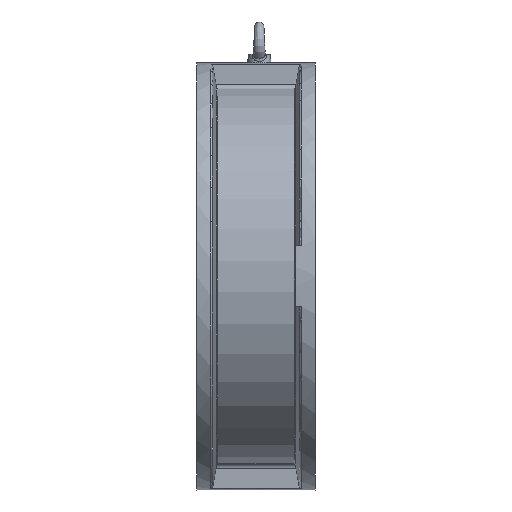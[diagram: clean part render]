
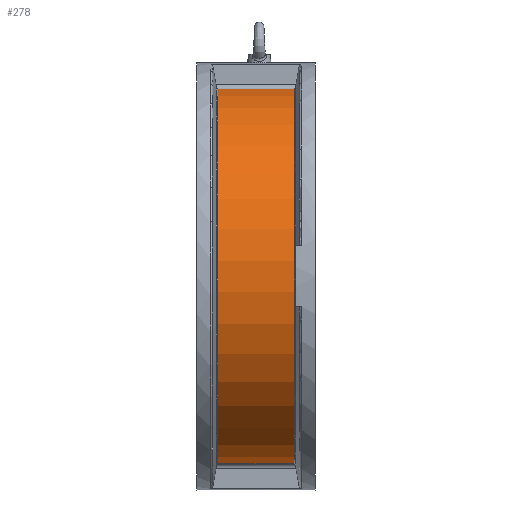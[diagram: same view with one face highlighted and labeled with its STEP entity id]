
A CAD part, left-side view. The second image highlights one B-rep face of the part: STEP entity #278.
In plain terms, the highlighted cylindrical face has radius 202 mm (diameter 404 mm), a partial arc.
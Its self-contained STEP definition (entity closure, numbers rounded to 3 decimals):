
#197 = CARTESIAN_POINT ( 'NONE',  ( 2667.157, 1533.181, 200.008 ) ) ;
#246 = VECTOR ( 'NONE', #4078, 1000. ) ;
#278 = ADVANCED_FACE ( 'NONE', ( #2980 ), #5260, .T. ) ;
#364 = DIRECTION ( 'NONE',  ( 0., 0., 1. ) ) ;
#410 = AXIS2_PLACEMENT_3D ( 'NONE', #3344, #5099, #364 ) ;
#417 = AXIS2_PLACEMENT_3D ( 'NONE', #1306, #3045, #454 ) ;
#440 = DIRECTION ( 'NONE',  ( 0., 1., 0. ) ) ;
#454 = DIRECTION ( 'NONE',  ( 0., 0., 1. ) ) ;
#561 = EDGE_CURVE ( 'NONE', #1570, #4865, #3327, .T. ) ;
#586 = ORIENTED_EDGE ( 'NONE', *, *, #3141, .T. ) ;
#624 = CARTESIAN_POINT ( 'NONE',  ( 2667.157, 1451.215, -200.008 ) ) ;
#1306 = CARTESIAN_POINT ( 'NONE',  ( 2695.457, 1562.242, 0. ) ) ;
#1570 = VERTEX_POINT ( 'NONE', #3419 ) ;
#1997 = EDGE_CURVE ( 'NONE', #4091, #4865, #5203, .T. ) ;
#2133 = AXIS2_PLACEMENT_3D ( 'NONE', #5666, #440, #3011 ) ;
#2181 = VECTOR ( 'NONE', #3292, 1000. ) ;
#2292 = LINE ( 'NONE', #5398, #246 ) ;
#2848 = ORIENTED_EDGE ( 'NONE', *, *, #4261, .T. ) ;
#2980 = FACE_OUTER_BOUND ( 'NONE', #5245, .T. ) ;
#3011 = DIRECTION ( 'NONE',  ( 0., 0., 1. ) ) ;
#3045 = DIRECTION ( 'NONE',  ( 0., 1., 0. ) ) ;
#3127 = VERTEX_POINT ( 'NONE', #624 ) ;
#3141 = EDGE_CURVE ( 'NONE', #3127, #1570, #3724, .T. ) ;
#3292 = DIRECTION ( 'NONE',  ( 0., 1., 0. ) ) ;
#3327 = LINE ( 'NONE', #3667, #2181 ) ;
#3344 = CARTESIAN_POINT ( 'NONE',  ( 2695.457, 1451.215, 0. ) ) ;
#3419 = CARTESIAN_POINT ( 'NONE',  ( 2667.157, 1451.215, 200.008 ) ) ;
#3667 = CARTESIAN_POINT ( 'NONE',  ( 2667.157, 1562.242, 200.008 ) ) ;
#3724 = CIRCLE ( 'NONE', #410, 202. ) ;
#4078 = DIRECTION ( 'NONE',  ( 0., -1., 0. ) ) ;
#4091 = VERTEX_POINT ( 'NONE', #4925 ) ;
#4261 = EDGE_CURVE ( 'NONE', #4091, #3127, #2292, .T. ) ;
#4865 = VERTEX_POINT ( 'NONE', #197 ) ;
#4925 = CARTESIAN_POINT ( 'NONE',  ( 2667.157, 1533.181, -200.008 ) ) ;
#5099 = DIRECTION ( 'NONE',  ( 0., 1., 0. ) ) ;
#5203 = CIRCLE ( 'NONE', #2133, 202. ) ;
#5245 = EDGE_LOOP ( 'NONE', ( #5422, #2848, #586, #5483 ) ) ;
#5260 = CYLINDRICAL_SURFACE ( 'NONE', #417, 202. ) ;
#5398 = CARTESIAN_POINT ( 'NONE',  ( 2667.157, 1562.242, -200.008 ) ) ;
#5422 = ORIENTED_EDGE ( 'NONE', *, *, #1997, .F. ) ;
#5483 = ORIENTED_EDGE ( 'NONE', *, *, #561, .T. ) ;
#5666 = CARTESIAN_POINT ( 'NONE',  ( 2695.457, 1533.181, 0. ) ) ;
